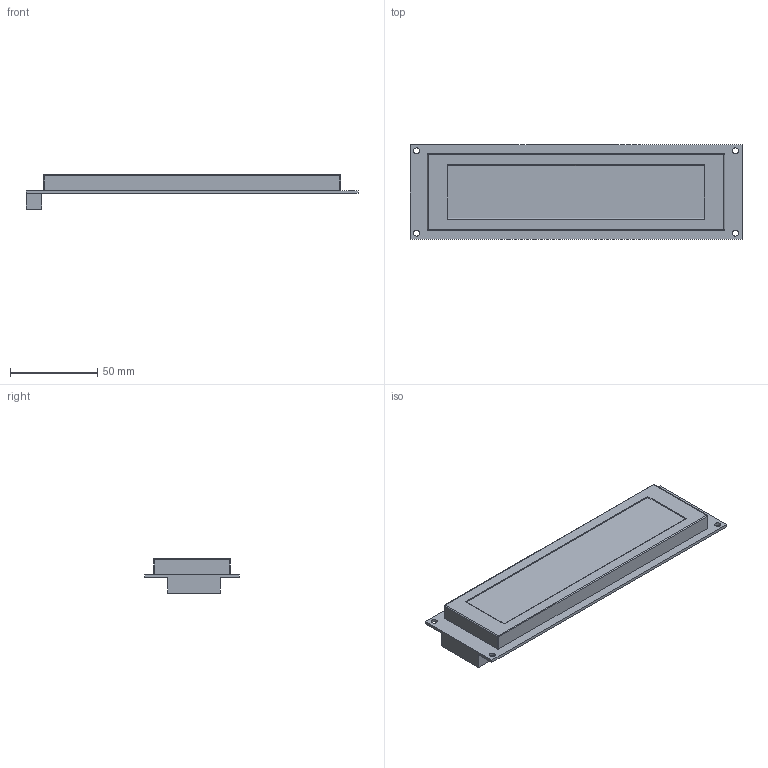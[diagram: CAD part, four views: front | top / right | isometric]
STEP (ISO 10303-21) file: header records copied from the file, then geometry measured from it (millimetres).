
FILE_DESCRIPTION(/* description */ ('Alibre Inc.'),/* implementation_level */ '2;1');
FILE_NAME(/* name */ 'export0',/* time_stamp */ '2013-07-15T10:30:08-06:00',/* author */ (''),/* organization */ (''),/* preprocessor_version */ 'ST-DEVELOPER v14',/* originating_system */ 'Alibre',/* authorisation */ '');
FILE_SCHEMA (('ALIBRE_SCHEMA','CONFIG_CONTROL_DESIGN'));
Length unit declared in the file: centimetre
Products named in the file (1): ID_1
Bounding box: 190 x 54 x 19.65 mm (x, y, z)
Volume: 83911.4 mm3; surface area: 26377.6 mm2
Topology: 1 solids, 1 shells, 41 faces, 100 edges, 60 vertices
Faces by surface type: plane 21, cylinder 16, sphere 4
Full cylindrical faces by diameter (mm): 3.5 x4
Entity records: 3028 total; most frequent: CARTESIAN_POINT 384, DIRECTION 278, CONSTRAINTPAIRUV 194, ORIENTED_EDGE 184, REFERENCEDEPENDENTUV 157, VECTOR 154, LINE 114, REFERENCEPOINTUV 113
